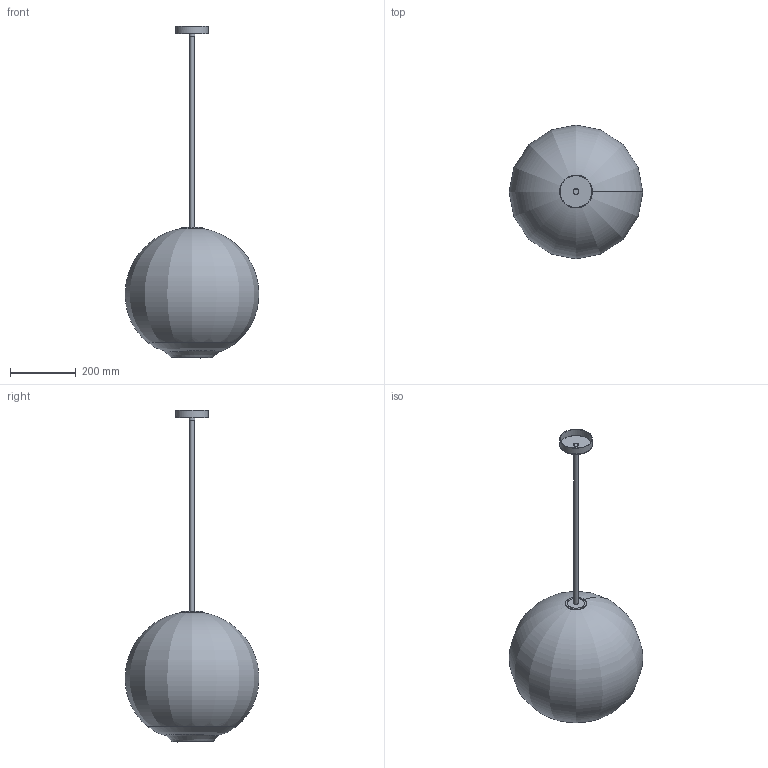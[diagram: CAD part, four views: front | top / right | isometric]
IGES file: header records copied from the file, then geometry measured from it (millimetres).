
Global section: file name: /Users/danielszollosi/Documents/SkLO/Sklo.com/3D models/WEB 3D Models/WEB 3D Models EU/SkLO_Float_1.0_Pendant_16_LT254_3D_EU.igs; native system: Rhinoceros ( Sep 24 2023 ); preprocessor: Trout Lake IGES 012 Sep 24 2023; date: 241023.143231; units: millimetre
Bounding box: 407.65 x 407.74 x 1013.06 mm (x, y, z)
Surface area: 1126423.5 mm2 (no closed solid volume)
Topology: 0 solids, 0 shells, 346 faces, 3903 edges, 3822 vertices
Faces by surface type: bspline 346
